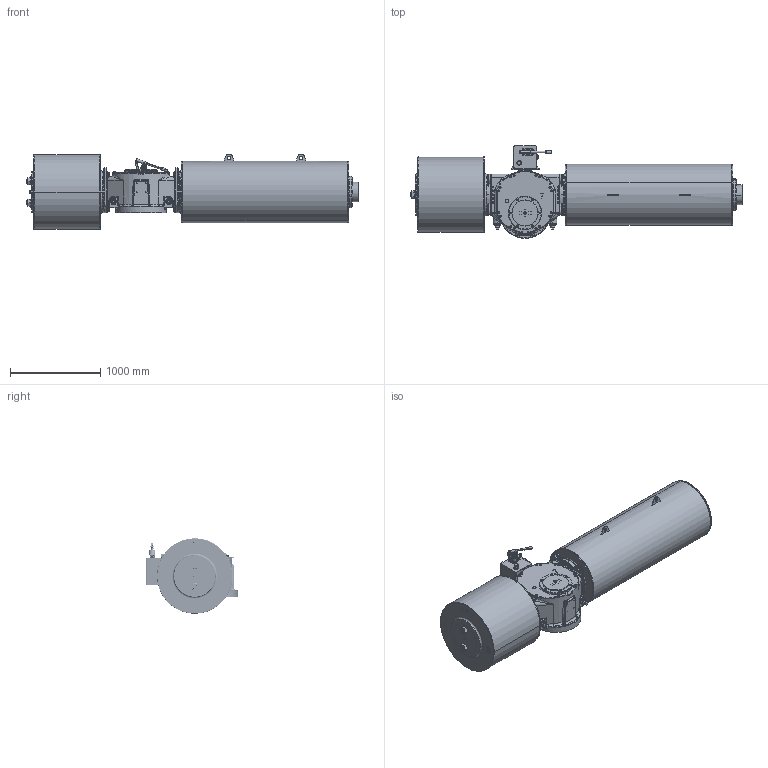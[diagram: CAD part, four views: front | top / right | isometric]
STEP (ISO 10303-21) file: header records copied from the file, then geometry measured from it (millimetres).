
FILE_DESCRIPTION (( 'STEP AP203' ), '1' );
FILE_NAME ('VTS7-800-SR-MH-FC.STEP', '2023-01-01T10:13:17', ( '' ), ( '' ), 'SwSTEP 2.0', 'SolidWorks 2020', '' );
FILE_SCHEMA (( 'CONFIG_CONTROL_DESIGN' ));
Length unit declared in the file: millimetre
Products named in the file (1): VTS7-800-SR-MH-FC
Bounding box: 3688 x 1027 x 839.5 mm (x, y, z)
Volume: 1308557580.6 mm3; surface area: 12938843.6 mm2
Topology: 42 solids, 51 shells, 3949 faces, 9550 edges, 5857 vertices
Faces by surface type: cylinder 1375, plane 1283, cone 882, bspline 378, torus 31
Entity records: 144171 total; most frequent: CARTESIAN_POINT 53725, DIRECTION 19202, ORIENTED_EDGE 18800, EDGE_CURVE 9400, AXIS2_PLACEMENT_3D 7728, VERTEX_POINT 5857, EDGE_LOOP 4385, CIRCLE 4156
